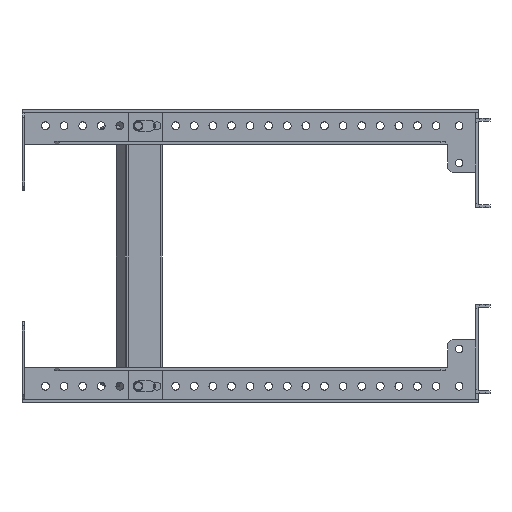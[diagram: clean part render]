
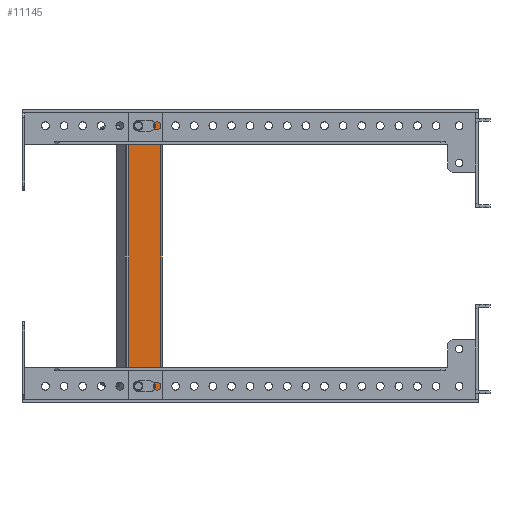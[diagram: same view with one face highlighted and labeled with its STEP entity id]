
A CAD part, front view. The second image highlights one B-rep face of the part: STEP entity #11145.
In plain terms, the highlighted planar face has unit normal (0, -1, 0).
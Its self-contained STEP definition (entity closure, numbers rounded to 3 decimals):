
#87 = DIRECTION ( 'NONE',  ( 1., 0., 0. ) ) ;
#198 = ORIENTED_EDGE ( 'NONE', *, *, #1553, .F. ) ;
#324 = DIRECTION ( 'NONE',  ( -1., 0., 0. ) ) ;
#862 = ORIENTED_EDGE ( 'NONE', *, *, #887, .T. ) ;
#887 = EDGE_CURVE ( 'NONE', #3796, #19378, #1687, .T. ) ;
#1273 = CARTESIAN_POINT ( 'NONE',  ( 1120.27, -253.815, 87.5 ) ) ;
#1335 = DIRECTION ( 'NONE',  ( -1., 0., 0. ) ) ;
#1366 = CARTESIAN_POINT ( 'NONE',  ( 1112.27, -253.815, -91. ) ) ;
#1553 = EDGE_CURVE ( 'NONE', #16012, #23505, #18865, .T. ) ;
#1687 = LINE ( 'NONE', #10531, #18202 ) ;
#1768 = CIRCLE ( 'NONE', #10569, 3.5 ) ;
#2071 = CIRCLE ( 'NONE', #9940, 3.5 ) ;
#2204 = CARTESIAN_POINT ( 'NONE',  ( 1108.77, -253.815, -87.5 ) ) ;
#2399 = CARTESIAN_POINT ( 'NONE',  ( 1150.737, -253.815, 0. ) ) ;
#2406 = EDGE_CURVE ( 'NONE', #23505, #20490, #17945, .T. ) ;
#2736 = VERTEX_POINT ( 'NONE', #28707 ) ;
#2973 = AXIS2_PLACEMENT_3D ( 'NONE', #2399, #26528, #87 ) ;
#3003 = VECTOR ( 'NONE', #27783, 1000. ) ;
#3016 = VECTOR ( 'NONE', #8105, 1000. ) ;
#3308 = ORIENTED_EDGE ( 'NONE', *, *, #7752, .T. ) ;
#3329 = EDGE_CURVE ( 'NONE', #2736, #4265, #15087, .T. ) ;
#3593 = AXIS2_PLACEMENT_3D ( 'NONE', #1273, #27872, #7782 ) ;
#3644 = CARTESIAN_POINT ( 'NONE',  ( 1150.113, -253.815, -97.5 ) ) ;
#3749 = DIRECTION ( 'NONE',  ( -1., 0., 0. ) ) ;
#3796 = VERTEX_POINT ( 'NONE', #12720 ) ;
#3945 = VERTEX_POINT ( 'NONE', #13999 ) ;
#4265 = VERTEX_POINT ( 'NONE', #2204 ) ;
#4418 = EDGE_CURVE ( 'NONE', #21774, #16012, #14244, .T. ) ;
#4513 = EDGE_CURVE ( 'NONE', #8406, #18910, #2071, .T. ) ;
#4574 = FACE_BOUND ( 'NONE', #27939, .T. ) ;
#4764 = CARTESIAN_POINT ( 'NONE',  ( 1112.27, -253.815, 87.5 ) ) ;
#5212 = ORIENTED_EDGE ( 'NONE', *, *, #22743, .F. ) ;
#5239 = ORIENTED_EDGE ( 'NONE', *, *, #27429, .T. ) ;
#5778 = AXIS2_PLACEMENT_3D ( 'NONE', #12618, #19153, #3749 ) ;
#5803 = ORIENTED_EDGE ( 'NONE', *, *, #2406, .F. ) ;
#5967 = CARTESIAN_POINT ( 'NONE',  ( 1112.27, -253.815, 91. ) ) ;
#6730 = LINE ( 'NONE', #24331, #16638 ) ;
#6988 = CARTESIAN_POINT ( 'NONE',  ( 1112.27, -253.815, 87.5 ) ) ;
#7108 = EDGE_CURVE ( 'NONE', #4265, #23288, #1768, .T. ) ;
#7270 = DIRECTION ( 'NONE',  ( 0., 1., 0. ) ) ;
#7417 = LINE ( 'NONE', #16299, #3016 ) ;
#7750 = EDGE_LOOP ( 'NONE', ( #5803, #198, #19925, #28370 ) ) ;
#7752 = EDGE_CURVE ( 'NONE', #19378, #17182, #24066, .T. ) ;
#7782 = DIRECTION ( 'NONE',  ( -1., 0., 0. ) ) ;
#8105 = DIRECTION ( 'NONE',  ( -1., 0., 0. ) ) ;
#8406 = VERTEX_POINT ( 'NONE', #12294 ) ;
#9115 = CARTESIAN_POINT ( 'NONE',  ( 1112.27, -253.815, -91. ) ) ;
#9470 = CIRCLE ( 'NONE', #21096, 3.5 ) ;
#9740 = CARTESIAN_POINT ( 'NONE',  ( 1128.272, -253.815, 97.5 ) ) ;
#9802 = DIRECTION ( 'NONE',  ( -1., 0., 0. ) ) ;
#9940 = AXIS2_PLACEMENT_3D ( 'NONE', #21228, #11920, #1335 ) ;
#10531 = CARTESIAN_POINT ( 'NONE',  ( 1112.27, -253.815, 84. ) ) ;
#10569 = AXIS2_PLACEMENT_3D ( 'NONE', #13589, #20708, #9802 ) ;
#10625 = EDGE_CURVE ( 'NONE', #18910, #2736, #7417, .T. ) ;
#11145 = ADVANCED_FACE ( 'NONE', ( #15618, #4574, #19846 ), #28728, .F. ) ;
#11305 = ORIENTED_EDGE ( 'NONE', *, *, #3329, .F. ) ;
#11332 = VERTEX_POINT ( 'NONE', #22438 ) ;
#11521 = AXIS2_PLACEMENT_3D ( 'NONE', #4764, #15536, #24403 ) ;
#11656 = EDGE_CURVE ( 'NONE', #17182, #3945, #9470, .T. ) ;
#11920 = DIRECTION ( 'NONE',  ( 0., -1., 0. ) ) ;
#12294 = CARTESIAN_POINT ( 'NONE',  ( 1120.27, -253.815, -91. ) ) ;
#12547 = LINE ( 'NONE', #1366, #15272 ) ;
#12618 = CARTESIAN_POINT ( 'NONE',  ( 1112.27, -253.815, -87.5 ) ) ;
#12720 = CARTESIAN_POINT ( 'NONE',  ( 1120.27, -253.815, 84. ) ) ;
#12941 = LINE ( 'NONE', #5967, #27585 ) ;
#13589 = CARTESIAN_POINT ( 'NONE',  ( 1112.27, -253.815, -87.5 ) ) ;
#13770 = ORIENTED_EDGE ( 'NONE', *, *, #11656, .T. ) ;
#13999 = CARTESIAN_POINT ( 'NONE',  ( 1112.27, -253.815, 91. ) ) ;
#14244 = LINE ( 'NONE', #3644, #3003 ) ;
#14717 = DIRECTION ( 'NONE',  ( 1., 0., 0. ) ) ;
#15087 = CIRCLE ( 'NONE', #5778, 3.5 ) ;
#15272 = VECTOR ( 'NONE', #14717, 1000. ) ;
#15536 = DIRECTION ( 'NONE',  ( 0., 1., 0. ) ) ;
#15618 = FACE_OUTER_BOUND ( 'NONE', #7750, .T. ) ;
#16012 = VERTEX_POINT ( 'NONE', #27862 ) ;
#16108 = CARTESIAN_POINT ( 'NONE',  ( 1108.77, -253.815, 87.5 ) ) ;
#16299 = CARTESIAN_POINT ( 'NONE',  ( 1112.27, -253.815, -84. ) ) ;
#16638 = VECTOR ( 'NONE', #24044, 1000. ) ;
#16926 = EDGE_CURVE ( 'NONE', #3945, #11332, #12941, .T. ) ;
#17182 = VERTEX_POINT ( 'NONE', #16108 ) ;
#17691 = CARTESIAN_POINT ( 'NONE',  ( 1105.77, -253.815, 97.5 ) ) ;
#17945 = LINE ( 'NONE', #26813, #23376 ) ;
#18026 = CARTESIAN_POINT ( 'NONE',  ( 1128.272, -253.815, -97.5 ) ) ;
#18202 = VECTOR ( 'NONE', #19700, 1000. ) ;
#18724 = CARTESIAN_POINT ( 'NONE',  ( 1105.77, -253.815, -97.5 ) ) ;
#18865 = LINE ( 'NONE', #18724, #23821 ) ;
#18910 = VERTEX_POINT ( 'NONE', #23698 ) ;
#19153 = DIRECTION ( 'NONE',  ( 0., -1., 0. ) ) ;
#19378 = VERTEX_POINT ( 'NONE', #21044 ) ;
#19700 = DIRECTION ( 'NONE',  ( -1., 0., 0. ) ) ;
#19846 = FACE_BOUND ( 'NONE', #26808, .T. ) ;
#19925 = ORIENTED_EDGE ( 'NONE', *, *, #4418, .F. ) ;
#20234 = ORIENTED_EDGE ( 'NONE', *, *, #10625, .F. ) ;
#20274 = DIRECTION ( 'NONE',  ( 1., 0., 0. ) ) ;
#20490 = VERTEX_POINT ( 'NONE', #9740 ) ;
#20708 = DIRECTION ( 'NONE',  ( 0., -1., 0. ) ) ;
#20813 = CIRCLE ( 'NONE', #3593, 3.5 ) ;
#21044 = CARTESIAN_POINT ( 'NONE',  ( 1112.27, -253.815, 84. ) ) ;
#21096 = AXIS2_PLACEMENT_3D ( 'NONE', #6988, #7270, #324 ) ;
#21228 = CARTESIAN_POINT ( 'NONE',  ( 1120.27, -253.815, -87.5 ) ) ;
#21774 = VERTEX_POINT ( 'NONE', #18026 ) ;
#22437 = EDGE_CURVE ( 'NONE', #21774, #20490, #6730, .T. ) ;
#22438 = CARTESIAN_POINT ( 'NONE',  ( 1120.27, -253.815, 91. ) ) ;
#22645 = ORIENTED_EDGE ( 'NONE', *, *, #16926, .T. ) ;
#22743 = EDGE_CURVE ( 'NONE', #23288, #8406, #12547, .T. ) ;
#23288 = VERTEX_POINT ( 'NONE', #9115 ) ;
#23374 = ORIENTED_EDGE ( 'NONE', *, *, #4513, .F. ) ;
#23376 = VECTOR ( 'NONE', #20274, 1000. ) ;
#23505 = VERTEX_POINT ( 'NONE', #17691 ) ;
#23698 = CARTESIAN_POINT ( 'NONE',  ( 1120.27, -253.815, -84. ) ) ;
#23821 = VECTOR ( 'NONE', #27742, 1000. ) ;
#24044 = DIRECTION ( 'NONE',  ( 0., 0., 1. ) ) ;
#24066 = CIRCLE ( 'NONE', #11521, 3.5 ) ;
#24331 = CARTESIAN_POINT ( 'NONE',  ( 1128.272, -253.815, -100.859 ) ) ;
#24403 = DIRECTION ( 'NONE',  ( -1., 0., 0. ) ) ;
#26528 = DIRECTION ( 'NONE',  ( 0., 1., 0. ) ) ;
#26706 = ORIENTED_EDGE ( 'NONE', *, *, #7108, .F. ) ;
#26808 = EDGE_LOOP ( 'NONE', ( #3308, #13770, #22645, #5239, #862 ) ) ;
#26813 = CARTESIAN_POINT ( 'NONE',  ( 1105.77, -253.815, 97.5 ) ) ;
#27429 = EDGE_CURVE ( 'NONE', #11332, #3796, #20813, .T. ) ;
#27585 = VECTOR ( 'NONE', #28372, 1000. ) ;
#27742 = DIRECTION ( 'NONE',  ( 0., 0., 1. ) ) ;
#27783 = DIRECTION ( 'NONE',  ( -1., 0., 0. ) ) ;
#27862 = CARTESIAN_POINT ( 'NONE',  ( 1105.77, -253.815, -97.5 ) ) ;
#27872 = DIRECTION ( 'NONE',  ( 0., 1., 0. ) ) ;
#27939 = EDGE_LOOP ( 'NONE', ( #5212, #26706, #11305, #20234, #23374 ) ) ;
#28370 = ORIENTED_EDGE ( 'NONE', *, *, #22437, .T. ) ;
#28372 = DIRECTION ( 'NONE',  ( 1., 0., 0. ) ) ;
#28707 = CARTESIAN_POINT ( 'NONE',  ( 1112.27, -253.815, -84. ) ) ;
#28728 = PLANE ( 'NONE',  #2973 ) ;
